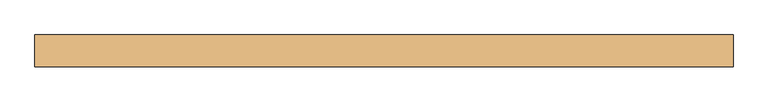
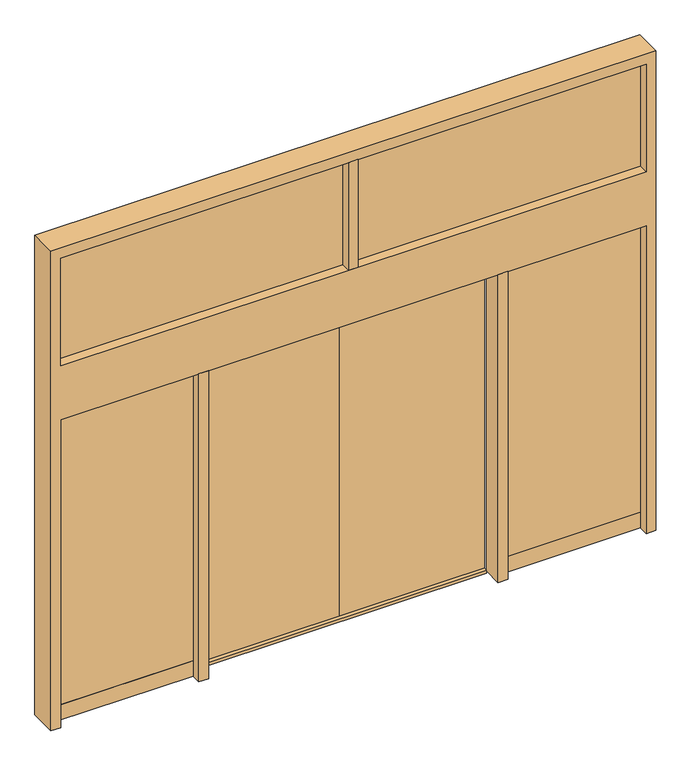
"""IFC4 building model written with IfcOpenShell, lengths in millimetres: door geometry, 営_自動ドア 両引き+ランマ : SSD1a 3600*3100."""

from ifc_helpers import new_model, si_unit, frame, origin, origin_with_axes, place, context, project, spatial, polyline, outline, extrude, source, transform, mapped, element, save


def door_377da531(model_context):
    return source(origin(), model_context, "Body", "SweptSolid", [
        extrude(outline(polyline([(-1800.0, -20.5), (-30.0, -20.5), (-30.0, -24.5), (-1800.0, -24.5), (-1800.0, -20.5)])), frame((0.0, 0.0, 2350.0), z_axis=(0.0, 0.0, 1.0), x_axis=(1.0, 0.0, 0.0)), (0.0, 0.0, 1.0), 700.0),
        extrude(outline(polyline([(30.0, -20.5), (1800.0, -20.5), (1800.0, -24.5), (30.0, -24.5), (30.0, -20.5)])), frame((0.0, 0.0, 2350.0), z_axis=(0.0, 0.0, 1.0), x_axis=(1.0, 0.0, 0.0)), (0.0, 0.0, 1.0), 700.0),
        extrude(outline(polyline([(30.0, -85.0), (-30.0, -85.0), (-30.0, 40.0), (30.0, 40.0), (30.0, -85.0)])), frame((0.0, 0.0, 2350.0), z_axis=(0.0, 0.0, 1.0), x_axis=(1.0, 0.0, 0.0)), (0.0, 0.0, 1.0), 700.0),
        extrude(outline(polyline([(-890.0, -85.0), (-950.0, -85.0), (-950.0, 40.0), (-890.0, 40.0), (-890.0, -85.0)])), origin_with_axes(), (0.0, 0.0, 1.0), 2000.0),
        extrude(outline(polyline([(950.0, -85.0), (890.0, -85.0), (890.0, 40.0), (950.0, 40.0), (950.0, -85.0)])), origin_with_axes(), (0.0, 0.0, 1.0), 2000.0),
        extrude(outline(polyline([(-1800.0, -20.5), (-950.0, -20.5), (-950.0, -24.5), (-1800.0, -24.5), (-1800.0, -20.5)])), origin_with_axes(), (0.0, 0.0, 1.0), 100.0),
        extrude(outline(polyline([(950.0, -20.5), (1800.0, -20.5), (1800.0, -24.5), (950.0, -24.5), (950.0, -20.5)])), origin_with_axes(), (0.0, 0.0, 1.0), 100.0),
        extrude(outline(polyline([(-1800.0, -20.5), (-950.0, -20.5), (-950.0, -24.5), (-1800.0, -24.5), (-1800.0, -20.5)])), frame((0.0, 0.0, 100.0), z_axis=(0.0, 0.0, 1.0), x_axis=(1.0, 0.0, 0.0)), (0.0, 0.0, 1.0), 1900.0),
        extrude(outline(polyline([(950.0, -20.5), (1800.0, -20.5), (1800.0, -24.5), (950.0, -24.5), (950.0, -20.5)])), frame((0.0, 0.0, 100.0), z_axis=(0.0, 0.0, 1.0), x_axis=(1.0, 0.0, 0.0)), (0.0, 0.0, 1.0), 1900.0),
        extrude(outline(polyline([(1.0, 67.0), (890.0, 67.0), (890.0, 63.0), (1.0, 63.0), (1.0, 67.0)])), origin_with_axes(), (0.0, 0.0, 1.0), 2000.0),
        extrude(outline(polyline([(-890.0, 67.0), (-1.0, 67.0), (-1.0, 63.0), (-890.0, 63.0), (-890.0, 67.0)])), origin_with_axes(), (0.0, 0.0, 1.0), 2000.0),
        extrude(outline(polyline([(3115.0, 1860.0), (3115.0, -1860.0), (0.0, -1860.0), (0.0, -1800.0), (2000.0, -1800.0), (2000.0, 1800.0), (0.0, 1800.0), (0.0, 1860.0), (3115.0, 1860.0)]), holes=[polyline([(3050.0, 1800.0), (2350.0, 1800.0), (2350.0, -1800.0), (3050.0, -1800.0), (3050.0, 1800.0)])]), frame((0.0, -85.0, 0.0), z_axis=(0.0, 1.0, 0.0), x_axis=(0.0, 0.0, 1.0)), (0.0, 0.0, 1.0), 170.0),
        extrude(outline(polyline([(890.0, 85.0), (890.0, 40.0), (-890.0, 40.0), (-890.0, 85.0), (890.0, 85.0)])), frame((0.0, 0.0, -15.0), z_axis=(0.0, 0.0, 1.0), x_axis=(1.0, 0.0, 0.0)), (0.0, 0.0, 1.0), 20.0),
    ])


if __name__ == "__main__":
    model = new_model("IFC4")
    model_context = context("Model", 3, world=origin())
    ifc_project = project(units=[si_unit("LENGTHUNIT", "METRE", prefix="MILLI")], contexts=[model_context])
    site = spatial("IfcSite", under=ifc_project)
    building = spatial("IfcBuilding", under=site)
    placement = place(None, origin())
    door_shape = door_377da531(model_context)
    element("IfcDoor", 1, ObjectType="営_自動ドア 両引き+ランマ : SSD1a 3600*3100", at=placement, inside=building, context=model_context, shape_type="MappedRepresentation", body=[
        mapped(door_shape, transform((0.0, 0.0, 0.0), x_axis=(1.0, 0.0, 0.0), y_axis=(0.0, 1.0, 0.0), z_axis=(0.0, 0.0, 1.0))),
    ])
    save(model, "model.ifc")
